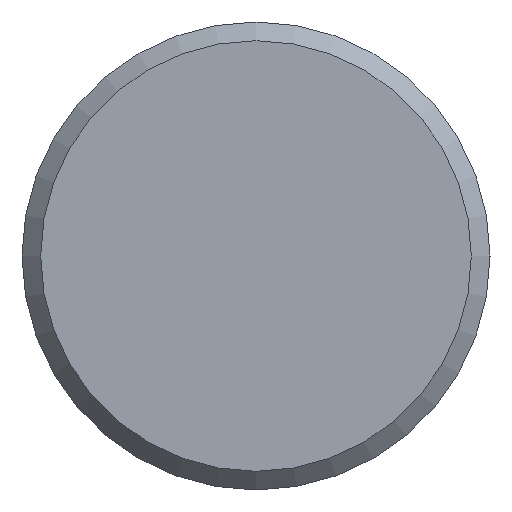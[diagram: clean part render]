
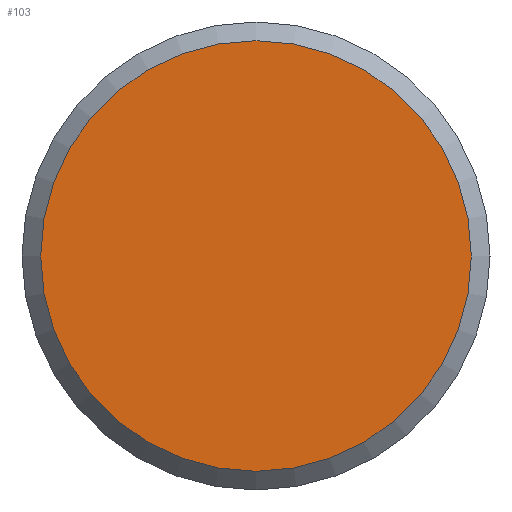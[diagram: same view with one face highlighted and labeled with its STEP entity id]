
A CAD part, left-side view. The second image highlights one B-rep face of the part: STEP entity #103.
In plain terms, the highlighted planar face has unit normal (-1, 0, 0).
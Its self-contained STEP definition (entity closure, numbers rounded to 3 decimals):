
#16=PLANE('',#138);
#30=FACE_OUTER_BOUND('',#36,.T.);
#36=EDGE_LOOP('',(#89));
#45=CIRCLE('',#137,11.5);
#53=VERTEX_POINT('',#197);
#65=EDGE_CURVE('',#53,#53,#45,.T.);
#89=ORIENTED_EDGE('',*,*,#65,.F.);
#103=ADVANCED_FACE('',(#30),#16,.F.);
#137=AXIS2_PLACEMENT_3D('',#199,#170,#171);
#138=AXIS2_PLACEMENT_3D('',#200,#172,#173);
#170=DIRECTION('center_axis',(1.,0.,0.));
#171=DIRECTION('ref_axis',(0.,-1.,0.));
#172=DIRECTION('center_axis',(1.,0.,0.));
#173=DIRECTION('ref_axis',(0.,0.,-1.));
#197=CARTESIAN_POINT('',(0.,11.5,0.));
#199=CARTESIAN_POINT('Origin',(0.,0.,0.));
#200=CARTESIAN_POINT('Origin',(0.,0.,0.));
